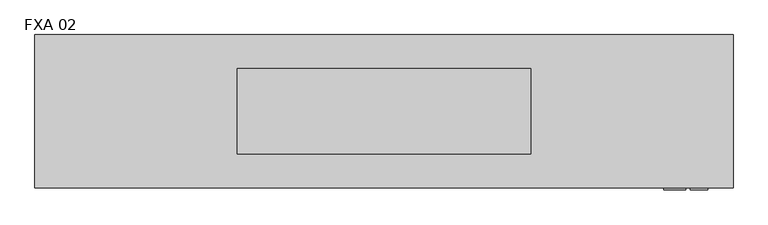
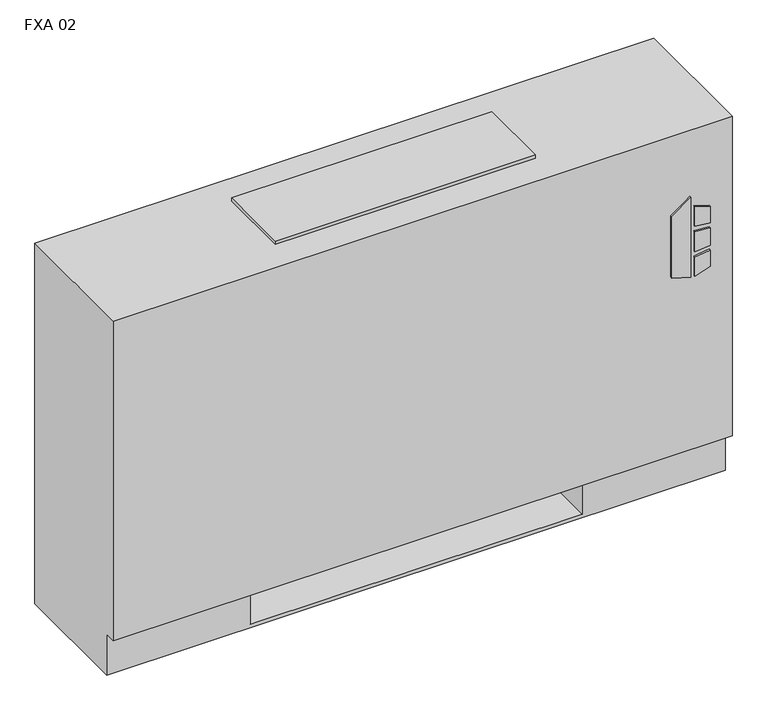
"""IFC4 building model written with IfcOpenShell, lengths in millimetres: proxy geometry, Vertical_Fan_Coil_Unit_-_FXA_-_IEC_-_2-Pipe_TS-FR_RH_2022 : FXA 02."""

from ifc_helpers import new_model, si_unit, point, frame, frame_2d, origin, place, context, project, spatial, polyline, circle_curve, trimmed, segment, composite_curve, outline, extrude, source, transform, mapped, element, save
from ifc_brep_helpers import plane_surface, revolved_surface, advanced_brep


def fxa_02_c9b70c98(model_context):
    return source(origin(), model_context, "Body", "SolidModel", [
        extrude(outline(polyline([(391.6086829, 569.9868862), (381.6606126, 602.1602728), (523.831537, 602.1602728), (500.8095309, 569.9868862), (391.6086829, 569.9868862)])), frame((0.0, 12.7, 0.0), z_axis=(0.0, 1.0, 0.0), x_axis=(0.0, 0.0, 1.0)), (0.0, 0.0, 1.0), 3.175),
        extrude(outline(polyline([(470.6079683, 608.9186058), (467.4055757, 635.0), (496.6344168, 635.0), (504.6988318, 608.9186058), (470.6079683, 608.9186058)])), frame((0.0, 12.7, 0.0), z_axis=(0.0, 1.0, 0.0), x_axis=(0.0, 0.0, 1.0)), (0.0, 0.0, 1.0), 3.175),
        extrude(outline(polyline([(418.7444414, 635.0), (415.0789404, 608.9186058), (381.6606126, 608.9186058), (390.2948498, 635.0), (418.7444414, 635.0)])), frame((0.0, 12.7, 0.0), z_axis=(0.0, 1.0, 0.0), x_axis=(0.0, 0.0, 1.0)), (0.0, 0.0, 1.0), 3.175),
        extrude(outline(polyline([(458.0596028, 635.0), (460.3414292, 608.9186058), (424.4038806, 608.9186058), (427.1451456, 635.0), (458.0596028, 635.0)])), frame((0.0, 12.7, 0.0), z_axis=(0.0, 1.0, 0.0), x_axis=(0.0, 0.0, 1.0)), (0.0, 0.0, 1.0), 3.175),
        extrude(outline(polyline([(-247.65, 81.534), (-247.65, 223.266), (-127.0, 223.266), (-127.0, 81.534), (-247.65, 81.534)])), frame((0.0, 0.0, 327.025), z_axis=(0.0, 0.0, 1.0), x_axis=(1.0, 0.0, 0.0)), (0.0, 0.0, 1.0), 260.35),
        extrude(outline(composite_curve([segment(trimmed(circle_curve(frame_2d((495.3, 130.175)), 9.525), [point((485.775, 130.175))], [point((504.825, 130.175))], False, "CARTESIAN"), True, "CONTINUOUS"), segment(trimmed(circle_curve(frame_2d((495.3, 130.175)), 9.525), [point((504.825, 130.175))], [point((485.775, 130.175))], False, "CARTESIAN"), True, "CONTINUOUS")], self_intersect=False)), frame((0.0, 0.0, 101.6), z_axis=(0.0, 0.0, 1.0), x_axis=(1.0, 0.0, 0.0)), (0.0, 0.0, 1.0), 25.4),
        extrude(outline(polyline([(590.55, 196.85), (590.55, 63.5), (431.8, 63.5), (431.8, 196.85), (590.55, 196.85)])), frame((0.0, 0.0, 127.0), z_axis=(0.0, 0.0, 1.0), x_axis=(1.0, 0.0, 0.0)), (0.0, 0.0, 1.0), 50.8),
        extrude(outline(composite_curve([segment(trimmed(circle_curve(frame_2d((93.1926, 485.5972)), 7.9375), [point((93.1926, 493.5347))], [point((93.1926, 477.6597))], False, "CARTESIAN"), True, "CONTINUOUS"), segment(trimmed(circle_curve(frame_2d((93.1926, 485.5972)), 7.9375), [point((93.1926, 477.6597))], [point((93.1926, 493.5347))], False, "CARTESIAN"), True, "CONTINUOUS")], self_intersect=False)), frame((431.8, 0.0, 0.0), z_axis=(1.0, 0.0, 0.0), x_axis=(0.0, 1.0, 0.0)), (0.0, 0.0, 1.0), 50.8),
        extrude(outline(composite_curve([segment(trimmed(circle_curve(frame_2d((141.3002, 458.9526)), 7.9375), [point((141.3002, 466.8901))], [point((141.3002, 451.0151))], False, "CARTESIAN"), True, "CONTINUOUS"), segment(trimmed(circle_curve(frame_2d((141.3002, 458.9526)), 7.9375), [point((141.3002, 451.0151))], [point((141.3002, 466.8901))], False, "CARTESIAN"), True, "CONTINUOUS")], self_intersect=False)), frame((431.8, 0.0, 0.0), z_axis=(1.0, 0.0, 0.0), x_axis=(0.0, 1.0, 0.0)), (0.0, 0.0, 1.0), 50.8),
        advanced_brep(
        [(673.1, 244.475, 641.35), (-368.3, 244.475, 641.35), (-368.3, 15.875, 641.35), (673.1, 15.875, 641.35), (-368.3, 244.475, 0.0), (673.1, 244.475, 0.0), (673.1, 34.925, 0.0), (-368.3, 34.925, 0.0), (431.8, 244.475, 73.025), (660.4, 244.475, 73.025), (660.4, 244.475, 628.65), (431.8, 244.475, 628.65), (431.8, 244.475, 414.8650565), (460.375, 244.475, 414.8650565), (460.375, 244.475, 385.2349435), (431.8, 244.475, 385.2349435), (431.8, 244.475, 287.3375), (460.375, 244.475, 287.3375), (460.375, 244.475, 258.7625), (431.8, 244.475, 258.7625), (431.8, 244.475, 141.2875), (460.375, 244.475, 141.2875), (460.375, 244.475, 112.7125), (431.8, 244.475, 112.7125), (-127.0, 244.475, 628.65), (-355.6, 244.475, 628.65), (-355.6, 244.475, 73.025), (-127.0, 244.475, 73.025), (-127.0, 244.475, 112.7125), (-155.575, 244.475, 112.7125), (-155.575, 244.475, 141.2875), (-127.0, 244.475, 141.2875), (-127.0, 244.475, 258.7625), (-155.575, 244.475, 258.7625), (-155.575, 244.475, 287.3375), (-127.0, 244.475, 287.3375), (-127.0, 244.475, 385.2349435), (-155.575, 244.475, 385.2349435), (-155.575, 244.475, 414.8650565), (-127.0, 244.475, 414.8650565), (450.0626, 244.475, 127.0), (438.9374, 244.475, 127.0), (450.0626, 244.475, 400.05), (438.9374, 244.475, 400.05), (450.0626, 244.475, 273.05), (438.9374, 244.475, 273.05), (-134.1374, 244.475, 127.0), (-145.2626, 244.475, 127.0), (-134.1374, 244.475, 273.05), (-145.2626, 244.475, 273.05), (-134.1374, 244.475, 400.05), (-145.2626, 244.475, 400.05), (-368.3, 34.925, 73.025), (-368.3, 15.875, 73.025), (673.1, 15.875, 73.025), (673.1, 34.925, 73.025), (-127.0, 34.925, 73.025), (-127.0, 219.075, 73.025), (431.8, 219.075, 73.025), (431.8, 34.925, 73.025), (431.8, 34.925, 6.35), (-127.0, 34.925, 6.35), (431.8, 41.275, 628.65), (660.4, 41.275, 628.65), (660.4, 41.275, 73.025), (431.8, 41.275, 73.025), (-127.0, 41.275, 628.65), (-127.0, 41.275, 73.025), (-355.6, 41.275, 73.025), (-355.6, 41.275, 628.65), (431.8, 219.075, 73.025), (431.8, 238.125, 112.7125), (431.8, 238.125, 141.2875), (431.8, 238.125, 258.7625), (431.8, 238.125, 287.3375), (431.8, 238.125, 385.2349435), (431.8, 238.125, 414.8650565), (-127.0, 219.075, 73.025), (-127.0, 238.125, 414.8650565), (-127.0, 238.125, 385.2349435), (-127.0, 238.125, 287.3375), (-127.0, 238.125, 258.7625), (-127.0, 238.125, 141.2875), (-127.0, 238.125, 112.7125), (-127.0, 219.075, 6.35), (431.8, 219.075, 6.35), (460.375, 238.125, 112.7125), (460.375, 238.125, 141.2875), (438.9374, 238.125, 127.0), (450.0626, 238.125, 127.0), (460.375, 238.125, 258.7625), (460.375, 238.125, 287.3375), (438.9374, 238.125, 273.05), (450.0626, 238.125, 273.05), (460.375, 238.125, 385.2349435), (460.375, 238.125, 414.8650565), (438.9374, 238.125, 400.05), (450.0626, 238.125, 400.05), (-155.575, 238.125, 141.2875), (-155.575, 238.125, 112.7125), (-145.2626, 238.125, 127.0), (-134.1374, 238.125, 127.0), (-155.575, 238.125, 287.3375), (-155.575, 238.125, 258.7625), (-145.2626, 238.125, 273.05), (-134.1374, 238.125, 273.05), (-155.575, 238.125, 414.8650565), (-155.575, 238.125, 385.2349435), (-145.2626, 238.125, 400.05), (-134.1374, 238.125, 400.05)],
        [
            (0, 1),
            (1, 2),
            (2, 3),
            (3, 0),
            (4, 5),
            (5, 6),
            (6, 7),
            (7, 4),
            (0, 5),
            (4, 1),
            (8, 9),
            (9, 10),
            (10, 11),
            (11, 12),
            (12, 13),
            (13, 14),
            (14, 15),
            (15, 16),
            (16, 17),
            (17, 18),
            (18, 19),
            (19, 20),
            (20, 21),
            (21, 22),
            (22, 23),
            (23, 8),
            (24, 25),
            (25, 26),
            (26, 27),
            (27, 28),
            (28, 29),
            (29, 30),
            (30, 31),
            (31, 32),
            (32, 33),
            (33, 34),
            (34, 35),
            (35, 36),
            (36, 37),
            (37, 38),
            (38, 39),
            (39, 24),
            (40, 41, circle_curve(frame((444.5, 244.475, 127.0), z_axis=(0.0, -1.0, 0.0), x_axis=(-1.0, 0.0, 0.0)), 5.5626)),
            (41, 40, circle_curve(frame((444.5, 244.475, 127.0), z_axis=(0.0, -1.0, 0.0), x_axis=(-1.0, 0.0, 0.0)), 5.5626)),
            (42, 43, circle_curve(frame((444.5, 244.475, 400.05), z_axis=(0.0, -1.0, 0.0), x_axis=(-1.0, 0.0, 0.0)), 5.5626)),
            (43, 42, circle_curve(frame((444.5, 244.475, 400.05), z_axis=(0.0, -1.0, 0.0), x_axis=(-1.0, 0.0, 0.0)), 5.5626)),
            (44, 45, circle_curve(frame((444.5, 244.475, 273.05), z_axis=(0.0, -1.0, 0.0), x_axis=(-1.0, 0.0, 0.0)), 5.5626)),
            (45, 44, circle_curve(frame((444.5, 244.475, 273.05), z_axis=(0.0, -1.0, 0.0), x_axis=(-1.0, 0.0, 0.0)), 5.5626)),
            (46, 47, circle_curve(frame((-139.7, 244.475, 127.0), z_axis=(0.0, -1.0, 0.0), x_axis=(-1.0, 0.0, 0.0)), 5.5626)),
            (47, 46, circle_curve(frame((-139.7, 244.475, 127.0), z_axis=(0.0, -1.0, 0.0), x_axis=(-1.0, 0.0, 0.0)), 5.5626)),
            (48, 49, circle_curve(frame((-139.7, 244.475, 273.05), z_axis=(0.0, -1.0, 0.0), x_axis=(-1.0, 0.0, 0.0)), 5.5626)),
            (49, 48, circle_curve(frame((-139.7, 244.475, 273.05), z_axis=(0.0, -1.0, 0.0), x_axis=(-1.0, 0.0, 0.0)), 5.5626)),
            (50, 51, circle_curve(frame((-139.7, 244.475, 400.05), z_axis=(0.0, -1.0, 0.0), x_axis=(-1.0, 0.0, 0.0)), 5.5626)),
            (51, 50, circle_curve(frame((-139.7, 244.475, 400.05), z_axis=(0.0, -1.0, 0.0), x_axis=(-1.0, 0.0, 0.0)), 5.5626)),
            (7, 52),
            (52, 53),
            (53, 2),
            (53, 54),
            (54, 3),
            (54, 55),
            (55, 6),
            (52, 56),
            (56, 57),
            (57, 58),
            (58, 59),
            (59, 55),
            (59, 60),
            (60, 61),
            (61, 56),
            (62, 63),
            (63, 64),
            (64, 65),
            (65, 62),
            (66, 67),
            (67, 68),
            (68, 69),
            (69, 66),
            (65, 70),
            (70, 8),
            (23, 71),
            (71, 72),
            (72, 20),
            (19, 73),
            (73, 74),
            (74, 16),
            (15, 75),
            (75, 76),
            (76, 12),
            (11, 62),
            (64, 9),
            (63, 10),
            (69, 25),
            (24, 66),
            (68, 26),
            (67, 77),
            (77, 27),
            (39, 78),
            (78, 79),
            (79, 36),
            (35, 80),
            (80, 81),
            (81, 32),
            (31, 82),
            (82, 83),
            (83, 28),
            (57, 84),
            (84, 85),
            (85, 58),
            (85, 60),
            (84, 61),
            (71, 86),
            (86, 87),
            (87, 72),
            (88, 89, circle_curve(frame((444.5, 238.125, 127.0), z_axis=(0.0, 1.0, 0.0), x_axis=(-1.0, 0.0, 0.0)), 5.5626)),
            (89, 88, circle_curve(frame((444.5, 238.125, 127.0), z_axis=(0.0, 1.0, 0.0), x_axis=(-1.0, 0.0, 0.0)), 5.5626)),
            (73, 90),
            (90, 91),
            (91, 74),
            (92, 93, circle_curve(frame((444.5, 238.125, 273.05), z_axis=(0.0, 1.0, 0.0), x_axis=(-1.0, 0.0, 0.0)), 5.5626)),
            (93, 92, circle_curve(frame((444.5, 238.125, 273.05), z_axis=(0.0, 1.0, 0.0), x_axis=(-1.0, 0.0, 0.0)), 5.5626)),
            (75, 94),
            (94, 95),
            (95, 76),
            (96, 97, circle_curve(frame((444.5, 238.125, 400.05), z_axis=(0.0, 1.0, 0.0), x_axis=(-1.0, 0.0, 0.0)), 5.5626)),
            (97, 96, circle_curve(frame((444.5, 238.125, 400.05), z_axis=(0.0, 1.0, 0.0), x_axis=(-1.0, 0.0, 0.0)), 5.5626)),
            (98, 99),
            (99, 83),
            (82, 98),
            (100, 101, circle_curve(frame((-139.7, 238.125, 127.0), z_axis=(0.0, 1.0, 0.0), x_axis=(-1.0, 0.0, 0.0)), 5.5626)),
            (101, 100, circle_curve(frame((-139.7, 238.125, 127.0), z_axis=(0.0, 1.0, 0.0), x_axis=(-1.0, 0.0, 0.0)), 5.5626)),
            (102, 103),
            (103, 81),
            (80, 102),
            (104, 105, circle_curve(frame((-139.7, 238.125, 273.05), z_axis=(0.0, 1.0, 0.0), x_axis=(-1.0, 0.0, 0.0)), 5.5626)),
            (105, 104, circle_curve(frame((-139.7, 238.125, 273.05), z_axis=(0.0, 1.0, 0.0), x_axis=(-1.0, 0.0, 0.0)), 5.5626)),
            (106, 107),
            (107, 79),
            (78, 106),
            (108, 109, circle_curve(frame((-139.7, 238.125, 400.05), z_axis=(0.0, 1.0, 0.0), x_axis=(-1.0, 0.0, 0.0)), 5.5626)),
            (109, 108, circle_curve(frame((-139.7, 238.125, 400.05), z_axis=(0.0, 1.0, 0.0), x_axis=(-1.0, 0.0, 0.0)), 5.5626)),
            (87, 21),
            (86, 22),
            (91, 17),
            (90, 18),
            (95, 13),
            (94, 14),
            (30, 98),
            (99, 29),
            (34, 102),
            (103, 33),
            (38, 106),
            (107, 37),
            (88, 41),
            (40, 89),
            (96, 43),
            (42, 97),
            (92, 45),
            (44, 93),
            (100, 47),
            (46, 101),
            (104, 49),
            (48, 105),
            (108, 51),
            (50, 109),
        ],
        [
            plane_surface(frame((-368.3, 244.475, 641.35), z_axis=(0.0, 0.0, 1.0), x_axis=(-1.0, 0.0, 0.0))),
            plane_surface(frame((-368.3, 244.475, 0.0), z_axis=(0.0, 0.0, -1.0), x_axis=(1.0, 0.0, 0.0))),
            plane_surface(frame((673.1, 244.475, 641.35), z_axis=(0.0, 1.0, 0.0), x_axis=(0.0, 0.0, -1.0))),
            plane_surface(frame((-368.3, 244.475, 641.35), z_axis=(-1.0, 0.0, 0.0), x_axis=(0.0, 0.0, -1.0))),
            plane_surface(frame((-368.3, 15.875, 641.35), z_axis=(0.0, -1.0, 0.0), x_axis=(0.0, 0.0, -1.0))),
            plane_surface(frame((673.1, 15.875, 641.35), z_axis=(1.0, 0.0, 0.0), x_axis=(0.0, 0.0, -1.0))),
            plane_surface(frame((-368.3, 15.875, 73.025), z_axis=(0.0, 0.0, -1.0), x_axis=(1.0, 0.0, 0.0))),
            plane_surface(frame((-368.3, 34.925, 73.025), z_axis=(0.0, -1.0, 0.0), x_axis=(1.0, 0.0, 0.0))),
            plane_surface(frame((431.8, 41.275, 628.65), z_axis=(0.0, 1.0, 0.0), x_axis=(0.0, 0.0, -1.0))),
            plane_surface(frame((431.8, 41.275, 628.65), z_axis=(1.0, 0.0, 0.0), x_axis=(0.0, 1.0, 0.0))),
            plane_surface(frame((431.8, 41.275, 73.025), z_axis=(0.0, 0.0, 1.0), x_axis=(0.0, 1.0, 0.0))),
            plane_surface(frame((660.4, 41.275, 73.025), z_axis=(-1.0, 0.0, 0.0), x_axis=(0.0, 1.0, 0.0))),
            plane_surface(frame((660.4, 41.275, 628.65), z_axis=(0.0, 0.0, -1.0), x_axis=(0.0, 1.0, 0.0))),
            plane_surface(frame((-127.0, 41.275, 628.65), z_axis=(0.0, 0.0, -1.0), x_axis=(0.0, 1.0, 0.0))),
            plane_surface(frame((-355.6, 41.275, 628.65), z_axis=(1.0, 0.0, 0.0), x_axis=(0.0, 1.0, 0.0))),
            plane_surface(frame((-355.6, 41.275, 73.025), z_axis=(0.0, 0.0, 1.0), x_axis=(0.0, 1.0, 0.0))),
            plane_surface(frame((-127.0, 41.275, 73.025), z_axis=(-1.0, 0.0, 0.0), x_axis=(0.0, 1.0, 0.0))),
            plane_surface(frame((431.8, 219.075, 73.025), z_axis=(0.0, -1.0, 0.0), x_axis=(0.0, 0.0, -1.0))),
            plane_surface(frame((431.8, 219.075, 73.025), z_axis=(-1.0, 0.0, 0.0), x_axis=(0.0, -1.0, 0.0))),
            plane_surface(frame((431.8, 219.075, 6.35), z_axis=(0.0, 0.0, 1.0), x_axis=(0.0, -1.0, 0.0))),
            plane_surface(frame((-127.0, 219.075, 6.35), z_axis=(1.0, 0.0, 0.0), x_axis=(0.0, -1.0, 0.0))),
            plane_surface(frame((460.375, 238.125, 141.2875), z_axis=(0.0, -1.0, 0.0), x_axis=(-1.0, 0.0, 0.0))),
            plane_surface(frame((431.8, 244.475, 141.2875), z_axis=(0.0, 0.0, 1.0), x_axis=(0.0, -1.0, 0.0))),
            plane_surface(frame((460.375, 244.475, 141.2875), z_axis=(1.0, 0.0, 0.0), x_axis=(0.0, -1.0, 0.0))),
            plane_surface(frame((460.375, 244.475, 112.7125), z_axis=(0.0, 0.0, -1.0), x_axis=(0.0, -1.0, 0.0))),
            plane_surface(frame((431.8, 244.475, 287.3375), z_axis=(0.0, 0.0, 1.0), x_axis=(0.0, -1.0, 0.0))),
            plane_surface(frame((460.375, 244.475, 287.3375), z_axis=(1.0, 0.0, 0.0), x_axis=(0.0, -1.0, 0.0))),
            plane_surface(frame((460.375, 244.475, 258.7625), z_axis=(0.0, 0.0, -1.0), x_axis=(0.0, -1.0, 0.0))),
            plane_surface(frame((431.8, 244.475, 414.8650565), z_axis=(0.0, 0.0, 1.0), x_axis=(0.0, -1.0, 0.0))),
            plane_surface(frame((460.375, 244.475, 414.8650565), z_axis=(1.0, 0.0, 0.0), x_axis=(0.0, -1.0, 0.0))),
            plane_surface(frame((460.375, 244.475, 385.2349435), z_axis=(0.0, 0.0, -1.0), x_axis=(0.0, -1.0, 0.0))),
            plane_surface(frame((-155.575, 244.475, 141.2875), z_axis=(0.0, 0.0, 1.0), x_axis=(0.0, -1.0, 0.0))),
            plane_surface(frame((-127.0, 244.475, 112.7125), z_axis=(0.0, 0.0, -1.0), x_axis=(0.0, -1.0, 0.0))),
            plane_surface(frame((-155.575, 244.475, 112.7125), z_axis=(-1.0, 0.0, 0.0), x_axis=(0.0, -1.0, 0.0))),
            plane_surface(frame((-155.575, 244.475, 287.3375), z_axis=(0.0, 0.0, 1.0), x_axis=(0.0, -1.0, 0.0))),
            plane_surface(frame((-127.0, 244.475, 258.7625), z_axis=(0.0, 0.0, -1.0), x_axis=(0.0, -1.0, 0.0))),
            plane_surface(frame((-155.575, 244.475, 258.7625), z_axis=(-1.0, 0.0, 0.0), x_axis=(0.0, -1.0, 0.0))),
            plane_surface(frame((-155.575, 244.475, 414.8650565), z_axis=(0.0, 0.0, 1.0), x_axis=(0.0, -1.0, 0.0))),
            plane_surface(frame((-127.0, 244.475, 385.2349435), z_axis=(0.0, 0.0, -1.0), x_axis=(0.0, -1.0, 0.0))),
            plane_surface(frame((-155.575, 244.475, 385.2349435), z_axis=(-1.0, 0.0, 0.0), x_axis=(0.0, -1.0, 0.0))),
            revolved_surface(polyline([(438.9374, 238.125, 127.0), (438.9374, 244.475, 127.0)]), (444.5, 244.475, 127.0), (0.0, -1.0, 0.0)),
            revolved_surface(polyline([(438.9374, 238.125, 400.05), (438.9374, 244.475, 400.05)]), (444.5, 244.475, 400.05), (0.0, -1.0, 0.0)),
            revolved_surface(polyline([(438.9374, 238.125, 273.05), (438.9374, 244.475, 273.05)]), (444.5, 244.475, 273.05), (0.0, -1.0, 0.0)),
            revolved_surface(polyline([(-145.2626, 238.125, 127.0), (-145.2626, 244.475, 127.0)]), (-139.7, 244.475, 127.0), (0.0, -1.0, 0.0)),
            revolved_surface(polyline([(-145.2626, 238.125, 273.05), (-145.2626, 244.475, 273.05)]), (-139.7, 244.475, 273.05), (0.0, -1.0, 0.0)),
            revolved_surface(polyline([(-145.2626, 238.125, 400.05), (-145.2626, 244.475, 400.05)]), (-139.7, 244.475, 400.05), (0.0, -1.0, 0.0)),
        ],
        [
            (0, [[1, 2, 3, 4]]),
            (1, [[5, 6, 7, 8]]),
            (2, [[-1, 9, -5, 10], [11, 12, 13, 14, 15, 16, 17, 18, 19, 20, 21, 22, 23, 24, 25, 26], [27, 28, 29, 30, 31, 32, 33, 34, 35, 36, 37, 38, 39, 40, 41, 42], [43, 44], [45, 46], [47, 48], [49, 50], [51, 52], [53, 54]]),
            (3, [[-2, -10, -8, 55, 56, 57]]),
            (4, [[-3, -57, 58, 59]]),
            (5, [[-4, -59, 60, 61, -6, -9]]),
            (6, [[-56, 62, 63, 64, 65, 66, -60, -58]]),
            (7, [[-7, -61, -66, 67, 68, 69, -62, -55]]),
            (8, [[70, 71, 72, 73]]),
            (8, [[74, 75, 76, 77]]),
            (9, [[-73, 78, 79, -26, 80, 81, 82, -22, 83, 84, 85, -18, 86, 87, 88, -14, 89]]),
            (10, [[-72, 90, -11, -79, -78]]),
            (11, [[-71, 91, -12, -90]]),
            (12, [[-70, -89, -13, -91]]),
            (13, [[-77, 92, -27, 93]]),
            (14, [[-76, 94, -28, -92]]),
            (15, [[-75, 95, 96, -29, -94]]),
            (16, [[-74, -93, -42, 97, 98, 99, -38, 100, 101, 102, -34, 103, 104, 105, -30, -96, -95]]),
            (17, [[-64, 106, 107, 108]]),
            (18, [[-108, 109, -67, -65]]),
            (19, [[-107, 110, -68, -109]]),
            (20, [[-106, -63, -69, -110]]),
            (21, [[111, 112, 113, -81], [114, 115]]),
            (21, [[116, 117, 118, -84], [119, 120]]),
            (21, [[121, 122, 123, -87], [124, 125]]),
            (21, [[126, 127, -104, 128], [129, 130]]),
            (21, [[131, 132, -101, 133], [134, 135]]),
            (21, [[136, 137, -98, 138], [139, 140]]),
            (22, [[-113, 141, -23, -82]]),
            (23, [[-112, 142, -24, -141]]),
            (24, [[-111, -80, -25, -142]]),
            (25, [[-118, 143, -19, -85]]),
            (26, [[-117, 144, -20, -143]]),
            (27, [[-116, -83, -21, -144]]),
            (28, [[-123, 145, -15, -88]]),
            (29, [[-122, 146, -16, -145]]),
            (30, [[-121, -86, -17, -146]]),
            (31, [[-128, -103, -33, 147]]),
            (32, [[-127, 148, -31, -105]]),
            (33, [[-126, -147, -32, -148]]),
            (34, [[-133, -100, -37, 149]]),
            (35, [[-132, 150, -35, -102]]),
            (36, [[-131, -149, -36, -150]]),
            (37, [[-138, -97, -41, 151]]),
            (38, [[-137, 152, -39, -99]]),
            (39, [[-136, -151, -40, -152]]),
            (40, [[153, -43, 154, -114]]),
            (40, [[-153, -115, -154, -44]]),
            (41, [[155, -45, 156, -124]]),
            (41, [[-155, -125, -156, -46]]),
            (42, [[157, -47, 158, -119]]),
            (42, [[-157, -120, -158, -48]]),
            (43, [[159, -49, 160, -129]]),
            (43, [[-159, -130, -160, -50]]),
            (44, [[161, -51, 162, -134]]),
            (44, [[-161, -135, -162, -52]]),
            (45, [[163, -53, 164, -139]]),
            (45, [[-163, -140, -164, -54]]),
        ],
    ),
        extrude(outline(polyline([(371.475, 193.675), (371.475, 66.675), (-66.675, 66.675), (-66.675, 193.675), (371.475, 193.675)])), frame((0.0, 0.0, 641.35), z_axis=(0.0, 0.0, 1.0), x_axis=(1.0, 0.0, 0.0)), (0.0, 0.0, 1.0), 6.35),
    ])


if __name__ == "__main__":
    model = new_model("IFC4")
    model_context = context("Model", 3, world=origin())
    ifc_project = project(units=[si_unit("LENGTHUNIT", "METRE", prefix="MILLI")], contexts=[model_context])
    site = spatial("IfcSite", under=ifc_project)
    building = spatial("IfcBuilding", under=site)
    placement = place(None, origin())
    fxa_02_shape = fxa_02_c9b70c98(model_context)
    element("IfcBuildingElementProxy", 1, Name="Vertical_Fan_Coil_Unit_-_FXA_-_IEC_-_2-Pipe_TS-FR_RH_2022 : FXA 02", ObjectType="Vertical_Fan_Coil_Unit_-_FXA_-_IEC_-_2-Pipe_TS-FR_RH_2022 : FXA 02", at=placement, inside=building, context=model_context, shape_type="MappedRepresentation", body=[
        mapped(fxa_02_shape, transform((0.0, 0.0, 0.0), x_axis=(1.0, 0.0, 0.0), y_axis=(0.0, 1.0, 0.0), z_axis=(0.0, 0.0, 1.0))),
    ])
    save(model, "model.ifc")
